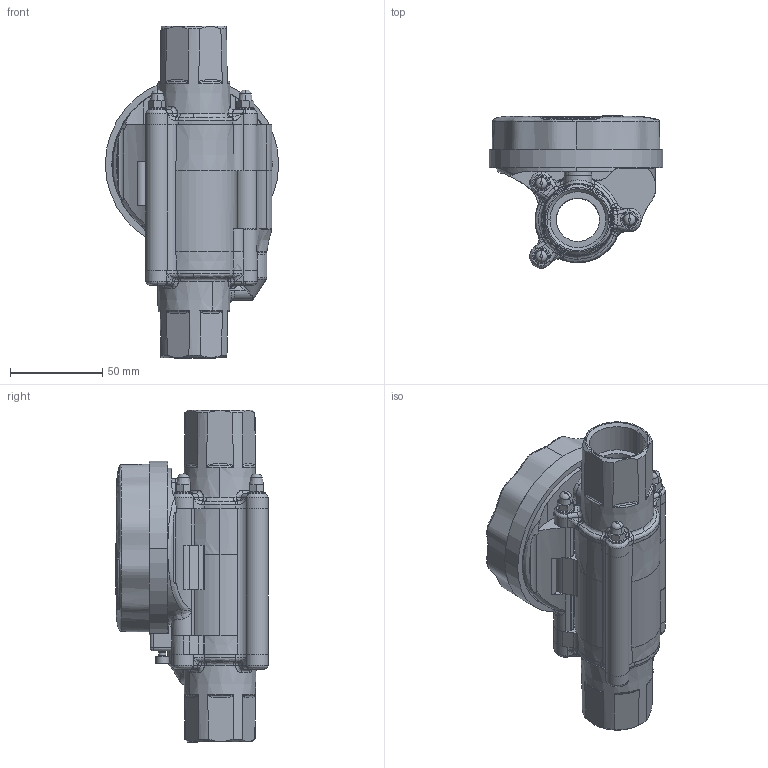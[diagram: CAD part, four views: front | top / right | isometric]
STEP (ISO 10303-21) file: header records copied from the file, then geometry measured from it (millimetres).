
FILE_DESCRIPTION (( 'STEP AP214' ), '1' );
FILE_NAME ('PAP-M025-FFG.STEP', '2020-02-04T16:01:32', ( 'Windows User' ), ( 'Watts Water' ), 'SwSTEP 2.0', 'SolidWorks 2017', '' );
FILE_SCHEMA (( 'AUTOMOTIVE_DESIGN' ));
Length unit declared in the file: millimetre
Products named in the file (1): PAP-M025-FFG
Bounding box: 94 x 82.55 x 180.1 mm (x, y, z)
Surface area: 83178.3 mm2 (no closed solid volume)
Topology: 0 solids, 30 shells, 731 faces, 2556 edges, 1760 vertices
Faces by surface type: bspline 244, plane 236, cylinder 162, cone 66, torus 21, sphere 2
Entity records: 68120 total; most frequent: CARTESIAN_POINT 40821, ORIENTED_EDGE 4135, DIRECTION 3381, EDGE_CURVE 2516, VERTEX_POINT 1760, AXIS2_PLACEMENT_3D 1257, LINE 867, VECTOR 867
